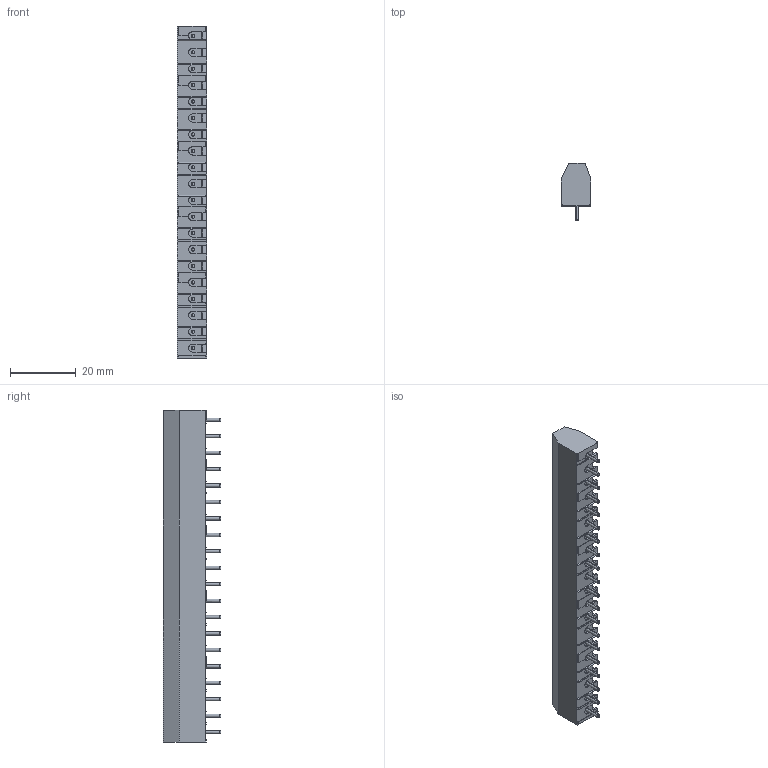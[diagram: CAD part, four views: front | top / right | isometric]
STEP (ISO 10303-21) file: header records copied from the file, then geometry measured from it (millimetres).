
FILE_DESCRIPTION (( 'STEP AP214' ), '1' );
FILE_NAME ('978-DS-20.STEP', '2008-03-02T04:04:22', ( ' ' ), ( '' ), 'SwSTEP 2.0', 'SolidWorks 2007', '' );
FILE_SCHEMA (( 'AUTOMOTIVE_DESIGN' ));
Length unit declared in the file: millimetre
Products named in the file (1): 978-DS-20
Bounding box: 9 x 17.4 x 101 mm (x, y, z)
Volume: 9283.2 mm3; surface area: 6858.9 mm2
Topology: 1 solids, 1 shells, 1520 faces, 4618 edges, 3045 vertices
Faces by surface type: plane 1095, cylinder 345, cone 80
Entity records: 52647 total; most frequent: CARTESIAN_POINT 11204, ORIENTED_EDGE 9236, DIRECTION 8030, EDGE_CURVE 4618, VECTOR 3208, LINE 3208, VERTEX_POINT 3045, AXIS2_PLACEMENT_3D 2411
